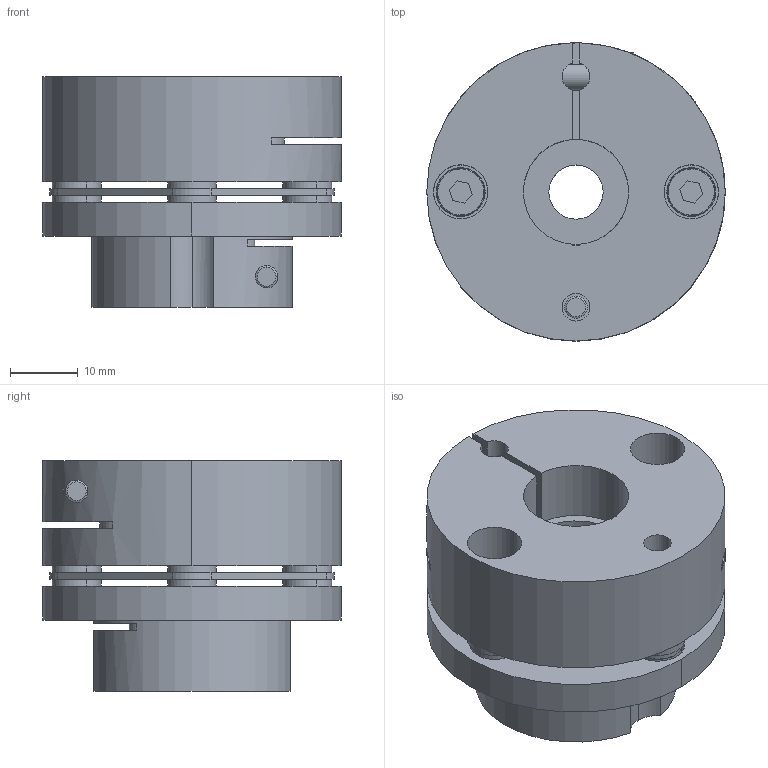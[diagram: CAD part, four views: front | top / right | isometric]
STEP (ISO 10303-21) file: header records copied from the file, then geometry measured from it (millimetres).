
FILE_DESCRIPTION (( 'STEP AP214' ), '1' );
FILE_NAME ('LC-A-040SA-8B-15.5B（B型）.STEP', '2019-09-19T01:50:34', ( 'admin' ), ( 'Microsoft' ), 'SwSTEP 2.0', 'SolidWorks 2016', '' );
FILE_SCHEMA (( 'AUTOMOTIVE_DESIGN' ));
Length unit declared in the file: millimetre
Products named in the file (1): LC-A-040SA-8B-15.5B（B型）
Bounding box: 44 x 44 x 34 mm (x, y, z)
Volume: 32372.2 mm3; surface area: 18126.6 mm2
Topology: 17 solids, 17 shells, 278 faces, 661 edges, 428 vertices
Faces by surface type: cylinder 132, plane 110, torus 24, cone 12
Entity records: 11754 total; most frequent: CARTESIAN_POINT 1709, DIRECTION 1533, ORIENTED_EDGE 1322, EDGE_CURVE 661, AXIS2_PLACEMENT_3D 610, VERTEX_POINT 428, EDGE_LOOP 345, CIRCLE 331
